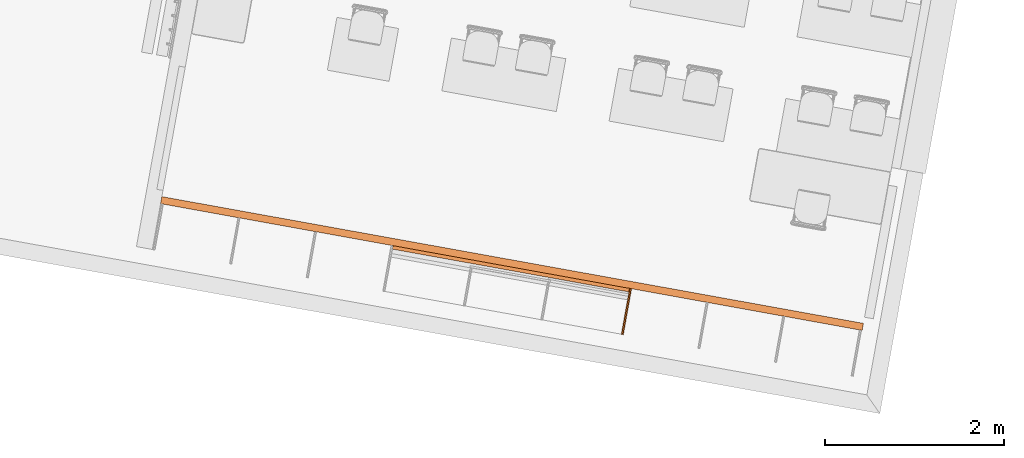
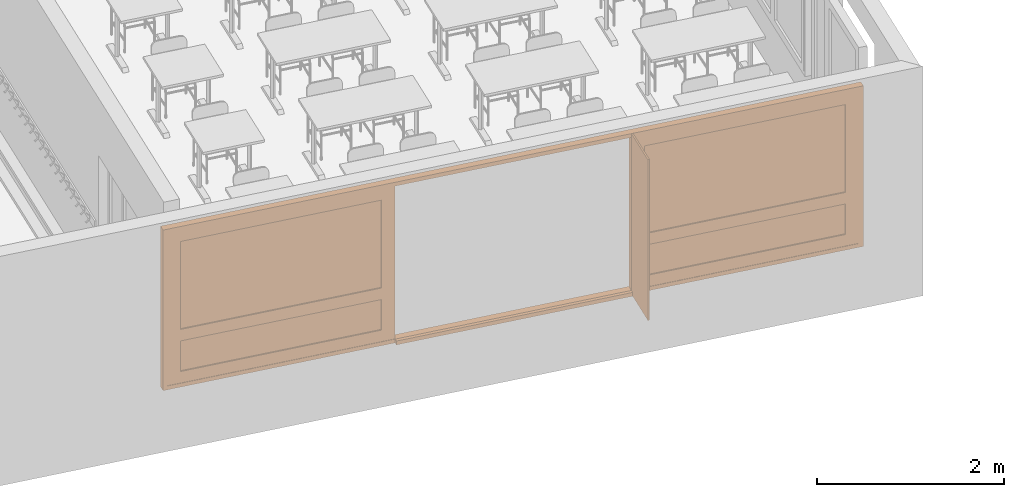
# One storey, part 22 of 79: 3 proxies.
"""IFC2X3 building model written with IfcOpenShell, lengths in metres."""

from ifc_helpers import new_model, entity, si_unit, converted_unit, derived_unit, money_unit, direction, frame, origin_with_axes, place, context, subcontext, project, spatial, polyline, outline, extrude, open_shell, faceted_brep, surface_model, source, transform, mapped, material, type_object, element, save


model = new_model("IFC2X3")

# Units and contexts
model_context = context("Model", 3, precision=1e-05, world=origin_with_axes(), true_north=direction((0.0, 1.0)))
body_context = subcontext(model_context, "Body", "Model", "MODEL_VIEW")
ifc_project = project(units=[si_unit("LENGTHUNIT", "METRE"), si_unit("AREAUNIT", "SQUARE_METRE"), si_unit("VOLUMEUNIT", "CUBIC_METRE"), converted_unit("PLANEANGLEUNIT", "DEGREE", entity("IfcPlaneAngleMeasure", 0.0174532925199), si_unit("PLANEANGLEUNIT", "RADIAN"), dimensions=[0, 0, 0, 0, 0, 0, 0]), money_unit("CHF"), converted_unit("TIMEUNIT", "Year", entity("IfcTimeMeasure", 31556926.0), si_unit("TIMEUNIT", "SECOND"), dimensions=[0, 0, 1, 0, 0, 0, 0]), si_unit("MASSUNIT", "GRAM", prefix="KILO"), si_unit("THERMODYNAMICTEMPERATUREUNIT", "DEGREE_CELSIUS"), si_unit("LUMINOUSINTENSITYUNIT", "LUMEN"), si_unit("ENERGYUNIT", "JOULE", prefix="MEGA"), derived_unit("THERMALCONDUCTANCEUNIT", [(si_unit("POWERUNIT", "WATT"), 1), (si_unit("LENGTHUNIT", "METRE"), -1), (si_unit("THERMODYNAMICTEMPERATUREUNIT", "KELVIN"), -1)]), derived_unit("SPECIFICHEATCAPACITYUNIT", [(si_unit("ENERGYUNIT", "JOULE"), 1), (si_unit("MASSUNIT", "GRAM", prefix="KILO"), -1), (si_unit("THERMODYNAMICTEMPERATUREUNIT", "KELVIN"), -1)]), derived_unit("MASSDENSITYUNIT", [(si_unit("MASSUNIT", "GRAM", prefix="KILO"), 1), (si_unit("VOLUMEUNIT", "CUBIC_METRE"), -1)])], contexts=[model_context])

# Site, building, storey
site_placement = place(None, frame((0.0, 0.0, 0.0), z_axis=(0.0, 0.0, 1.0), x_axis=(-0.177771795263, -0.984071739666, 0.0)))
site = spatial("IfcSite", under=ifc_project, at=site_placement, Name="Site", CompositionType="ELEMENT")
building_placement = place(site_placement, origin_with_axes())
building = spatial("IfcBuilding", under=site, at=building_placement, Name="Bâtiment", CompositionType="ELEMENT")
storey_placement = place(building_placement, origin_with_axes())
storey = spatial("IfcBuildingStorey", under=building, at=storey_placement, Name="RDC", CompositionType="ELEMENT", Elevation=0.0)

# Proxies
ifc_material_1 = material(Name="Matériau de construction IFC")
building_element_proxy_type_1 = type_object("IfcBuildingElementProxyType", Name="porte-couliss-triple_JM2", PredefinedType="NOTDEFINED")
shared_shape = source(origin_with_axes(), body_context, "Body", "SurfaceModel", [
    surface_model("IfcShellBasedSurfaceModel", [(7.92, -0.0799999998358, 0.05), (7.92, -0.0799999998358, 2.05), (7.92, 1.64206426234e-10, 2.05), (7.92, 1.64206426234e-10, 0.05), (7.97, -0.0799999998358, 2.05), (7.97, -0.0799999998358, 0.05), (7.97, 1.64206426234e-10, 2.05), (7.97, 1.64206426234e-10, 0.05)], [open_shell([[[0, 1, 2, 3]], [[4, 1, 0, 5]], [[6, 7, 3, 2]]])]),
    surface_model("IfcShellBasedSurfaceModel", [(7.97, -0.0799999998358, 0.0), (7.97, -0.0799999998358, 2.1), (7.97, 1.64206426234e-10, 2.1), (7.97, 1.64206426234e-10, 0.0)], [open_shell([[[0, 1, 2, 3]]])]),
    surface_model("IfcShellBasedSurfaceModel", [(0.05, -0.0799999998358, 0.05), (7.92, -0.0799999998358, 0.05), (7.92, 1.64206426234e-10, 0.05), (0.05, 1.64206426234e-10, 0.05), (7.92, -0.0799999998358, 0.0), (0.05, -0.0799999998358, 0.0), (7.92, 1.64206426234e-10, 0.0), (0.05, 1.64206426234e-10, 0.0)], [open_shell([[[0, 1, 2, 3]], [[4, 1, 0, 5]], [[6, 7, 3, 2]]])]),
    surface_model("IfcShellBasedSurfaceModel", [(7.97, -0.0799999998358, 0.0), (0.0, -0.0799999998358, 0.0), (0.0, 1.64206426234e-10, 0.0), (7.97, 1.64206426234e-10, 0.0)], [open_shell([[[0, 1, 2, 3]]])]),
    surface_model("IfcShellBasedSurfaceModel", [(7.97, -0.0799999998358, 0.0), (7.97, -0.0799999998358, 0.05), (7.92, -0.0799999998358, 0.05), (7.92, -0.0799999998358, 0.0)], [open_shell([[[0, 1, 2, 3]]])]),
    surface_model("IfcShellBasedSurfaceModel", [(7.97, 1.64206426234e-10, 0.0), (7.97, 1.64206426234e-10, 0.05), (7.92, 1.64206426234e-10, 0.05), (7.92, 1.64206426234e-10, 0.0)], [open_shell([[[0, 1, 2, 3]]])]),
    surface_model("IfcShellBasedSurfaceModel", [(0.05, -0.0799999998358, 0.0), (0.05, -0.0799999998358, 0.05), (0.0, -0.0799999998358, 0.05), (0.0, -0.0799999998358, 0.0)], [open_shell([[[0, 1, 2, 3]]])]),
    surface_model("IfcShellBasedSurfaceModel", [(0.05, 1.64206426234e-10, 0.0), (0.05, 1.64206426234e-10, 0.05), (0.0, 1.64206426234e-10, 0.05), (0.0, 1.64206426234e-10, 0.0)], [open_shell([[[0, 1, 2, 3]]])]),
    surface_model("IfcShellBasedSurfaceModel", [(0.05, -0.0799999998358, 2.05), (0.05, -0.0799999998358, 0.05), (0.05, 1.64206426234e-10, 0.05), (0.05, 1.64206426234e-10, 2.05), (0.0, -0.0799999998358, 0.05), (0.0, -0.0799999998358, 2.05), (0.0, 1.64206426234e-10, 0.05), (0.0, 1.64206426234e-10, 2.05)], [open_shell([[[0, 1, 2, 3]], [[4, 1, 0, 5]], [[6, 7, 3, 2]]])]),
    surface_model("IfcShellBasedSurfaceModel", [(0.0, -0.0799999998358, 0.0), (0.0, -0.0799999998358, 2.1), (0.0, 1.64206426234e-10, 2.1), (0.0, 1.64206426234e-10, 0.0)], [open_shell([[[0, 1, 2, 3]]])]),
    surface_model("IfcShellBasedSurfaceModel", [(7.92, -0.0799999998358, 2.05), (0.05, -0.0799999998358, 2.05), (0.05, 1.64206426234e-10, 2.05), (7.92, 1.64206426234e-10, 2.05), (0.05, -0.0799999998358, 2.1), (7.92, -0.0799999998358, 2.1), (0.05, 1.64206426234e-10, 2.1), (7.92, 1.64206426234e-10, 2.1)], [open_shell([[[0, 1, 2, 3]], [[4, 1, 0, 5]], [[6, 7, 3, 2]]])]),
    surface_model("IfcShellBasedSurfaceModel", [(7.97, -0.0799999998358, 2.1), (0.0, -0.0799999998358, 2.1), (0.0, 1.64206426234e-10, 2.1), (7.97, 1.64206426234e-10, 2.1)], [open_shell([[[0, 1, 2, 3]]])]),
    surface_model("IfcShellBasedSurfaceModel", [(7.97, -0.0799999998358, 2.05), (7.97, -0.0799999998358, 2.1), (7.92, -0.0799999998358, 2.1), (7.92, -0.0799999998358, 2.05)], [open_shell([[[0, 1, 2, 3]]])]),
    surface_model("IfcShellBasedSurfaceModel", [(7.97, 1.64206426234e-10, 2.05), (7.97, 1.64206426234e-10, 2.1), (7.92, 1.64206426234e-10, 2.1), (7.92, 1.64206426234e-10, 2.05)], [open_shell([[[0, 1, 2, 3]]])]),
    surface_model("IfcShellBasedSurfaceModel", [(0.05, -0.0799999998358, 2.05), (0.05, -0.0799999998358, 2.1), (0.0, -0.0799999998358, 2.1), (0.0, -0.0799999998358, 2.05)], [open_shell([[[0, 1, 2, 3]]])]),
    surface_model("IfcShellBasedSurfaceModel", [(0.05, 1.64206426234e-10, 2.05), (0.05, 1.64206426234e-10, 2.1), (0.0, 1.64206426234e-10, 2.1), (0.0, 1.64206426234e-10, 2.05)], [open_shell([[[0, 1, 2, 3]]])]),
    surface_model("IfcShellBasedSurfaceModel", [(7.77, -0.0744999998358, 0.2), (7.77, -0.0744999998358, 1.9), (7.77, -0.00449999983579, 1.9), (7.77, -0.00449999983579, 0.2), (7.92, -0.0744999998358, 1.9), (7.92, -0.0744999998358, 0.2), (7.92, -0.00449999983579, 1.9), (7.92, -0.00449999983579, 0.2)], [open_shell([[[0, 1, 2, 3]], [[4, 1, 0, 5]], [[6, 7, 3, 2]]])]),
    surface_model("IfcShellBasedSurfaceModel", [(7.92, -0.0744999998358, 0.05), (7.92, -0.0744999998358, 2.05), (7.92, -0.00449999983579, 2.05), (7.92, -0.00449999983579, 0.05)], [open_shell([[[0, 1, 2, 3]]])]),
    surface_model("IfcShellBasedSurfaceModel", [(5.48, -0.0744999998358, 0.2), (7.77, -0.0744999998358, 0.2), (7.77, -0.00449999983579, 0.2), (5.48, -0.00449999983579, 0.2), (7.77, -0.0744999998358, 0.05), (5.48, -0.0744999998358, 0.05), (7.77, -0.00449999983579, 0.05), (5.48, -0.00449999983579, 0.05)], [open_shell([[[0, 1, 2, 3]], [[4, 1, 0, 5]], [[6, 7, 3, 2]]])]),
    surface_model("IfcShellBasedSurfaceModel", [(7.92, -0.0744999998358, 0.05), (5.33, -0.0744999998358, 0.05), (5.33, -0.00449999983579, 0.05), (7.92, -0.00449999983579, 0.05)], [open_shell([[[0, 1, 2, 3]]])]),
    surface_model("IfcShellBasedSurfaceModel", [(7.92, -0.0744999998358, 0.05), (7.92, -0.0744999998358, 0.2), (7.77, -0.0744999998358, 0.2), (7.77, -0.0744999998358, 0.05)], [open_shell([[[0, 1, 2, 3]]])]),
    surface_model("IfcShellBasedSurfaceModel", [(7.92, -0.00449999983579, 0.05), (7.92, -0.00449999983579, 0.2), (7.77, -0.00449999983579, 0.2), (7.77, -0.00449999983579, 0.05)], [open_shell([[[0, 1, 2, 3]]])]),
    surface_model("IfcShellBasedSurfaceModel", [(5.48, -0.0744999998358, 0.05), (5.48, -0.0744999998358, 0.2), (5.33, -0.0744999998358, 0.2), (5.33, -0.0744999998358, 0.05)], [open_shell([[[0, 1, 2, 3]]])]),
    surface_model("IfcShellBasedSurfaceModel", [(5.48, -0.00449999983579, 0.05), (5.48, -0.00449999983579, 0.2), (5.33, -0.00449999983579, 0.2), (5.33, -0.00449999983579, 0.05)], [open_shell([[[0, 1, 2, 3]]])]),
    surface_model("IfcShellBasedSurfaceModel", [(5.48, -0.0744999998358, 1.9), (5.48, -0.0744999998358, 0.2), (5.48, -0.00449999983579, 0.2), (5.48, -0.00449999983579, 1.9), (5.33, -0.0744999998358, 0.2), (5.33, -0.0744999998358, 1.9), (5.33, -0.00449999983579, 0.2), (5.33, -0.00449999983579, 1.9)], [open_shell([[[0, 1, 2, 3]], [[4, 1, 0, 5]], [[6, 7, 3, 2]]])]),
    surface_model("IfcShellBasedSurfaceModel", [(5.33, -0.0744999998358, 0.05), (5.33, -0.0744999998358, 2.05), (5.33, -0.00449999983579, 2.05), (5.33, -0.00449999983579, 0.05)], [open_shell([[[0, 1, 2, 3]]])]),
    surface_model("IfcShellBasedSurfaceModel", [(7.77, -0.0744999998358, 1.9), (5.48, -0.0744999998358, 1.9), (5.48, -0.00449999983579, 1.9), (7.77, -0.00449999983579, 1.9), (5.48, -0.0744999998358, 2.05), (7.77, -0.0744999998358, 2.05), (5.48, -0.00449999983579, 2.05), (7.77, -0.00449999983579, 2.05)], [open_shell([[[0, 1, 2, 3]], [[4, 1, 0, 5]], [[6, 7, 3, 2]]])]),
    surface_model("IfcShellBasedSurfaceModel", [(7.92, -0.0744999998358, 2.05), (5.33, -0.0744999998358, 2.05), (5.33, -0.00449999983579, 2.05), (7.92, -0.00449999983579, 2.05)], [open_shell([[[0, 1, 2, 3]]])]),
    surface_model("IfcShellBasedSurfaceModel", [(7.92, -0.0744999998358, 1.9), (7.92, -0.0744999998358, 2.05), (7.77, -0.0744999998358, 2.05), (7.77, -0.0744999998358, 1.9)], [open_shell([[[0, 1, 2, 3]]])]),
    surface_model("IfcShellBasedSurfaceModel", [(7.92, -0.00449999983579, 1.9), (7.92, -0.00449999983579, 2.05), (7.77, -0.00449999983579, 2.05), (7.77, -0.00449999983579, 1.9)], [open_shell([[[0, 1, 2, 3]]])]),
    surface_model("IfcShellBasedSurfaceModel", [(5.48, -0.0744999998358, 1.9), (5.48, -0.0744999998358, 2.05), (5.33, -0.0744999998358, 2.05), (5.33, -0.0744999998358, 1.9)], [open_shell([[[0, 1, 2, 3]]])]),
    surface_model("IfcShellBasedSurfaceModel", [(5.48, -0.00449999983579, 1.9), (5.48, -0.00449999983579, 2.05), (5.33, -0.00449999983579, 2.05), (5.33, -0.00449999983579, 1.9)], [open_shell([[[0, 1, 2, 3]]])]),
    faceted_brep([(5.48, -0.0194999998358, 0.2), (7.77, -0.0194999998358, 0.2), (7.77, -0.0594999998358, 0.2), (5.48, -0.0594999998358, 0.2), (5.48, -0.0194999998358, 0.6), (7.77, -0.0194999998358, 0.6), (7.77, -0.0594999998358, 0.6), (5.48, -0.0594999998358, 0.6)], [[[0, 1, 2, 3]], [[1, 0, 4, 5]], [[2, 1, 5, 6]], [[3, 2, 6, 7]], [[0, 3, 7, 4]], [[5, 4, 7, 6]]]),
    faceted_brep([(5.48, -0.00449999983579, 0.6), (7.77, -0.00449999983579, 0.6), (7.77, -0.0744999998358, 0.6), (5.48, -0.0744999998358, 0.6), (5.48, -0.00449999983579, 0.75), (7.77, -0.00449999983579, 0.75), (7.77, -0.0744999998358, 0.75), (5.48, -0.0744999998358, 0.75)], [[[0, 1, 2, 3]], [[1, 0, 4, 5]], [[2, 1, 5, 6]], [[3, 2, 6, 7]], [[0, 3, 7, 4]], [[5, 4, 7, 6]]]),
    faceted_brep([(5.48, -0.0194999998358, 0.75), (7.77, -0.0194999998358, 0.75), (7.77, -0.0594999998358, 0.75), (5.48, -0.0594999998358, 0.75), (5.48, -0.0194999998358, 1.9), (7.77, -0.0194999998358, 1.9), (7.77, -0.0594999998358, 1.9), (5.48, -0.0594999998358, 1.9)], [[[0, 1, 2, 3]], [[1, 0, 4, 5]], [[2, 1, 5, 6]], [[3, 2, 6, 7]], [[0, 3, 7, 4]], [[5, 4, 7, 6]]]),
    surface_model("IfcShellBasedSurfaceModel", [(2.49, -0.0744999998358, 0.2), (2.49, -0.0744999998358, 1.9), (2.49, -0.00449999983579, 1.9), (2.49, -0.00449999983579, 0.2), (2.64, -0.0744999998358, 1.9), (2.64, -0.0744999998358, 0.2), (2.64, -0.00449999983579, 1.9), (2.64, -0.00449999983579, 0.2)], [open_shell([[[0, 1, 2, 3]], [[4, 1, 0, 5]], [[6, 7, 3, 2]]])]),
    surface_model("IfcShellBasedSurfaceModel", [(2.64, -0.0744999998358, 0.05), (2.64, -0.0744999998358, 2.05), (2.64, -0.00449999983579, 2.05), (2.64, -0.00449999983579, 0.05)], [open_shell([[[0, 1, 2, 3]]])]),
    surface_model("IfcShellBasedSurfaceModel", [(0.2, -0.0744999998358, 0.2), (2.49, -0.0744999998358, 0.2), (2.49, -0.00449999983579, 0.2), (0.2, -0.00449999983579, 0.2), (2.49, -0.0744999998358, 0.05), (0.2, -0.0744999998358, 0.05), (2.49, -0.00449999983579, 0.05), (0.2, -0.00449999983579, 0.05)], [open_shell([[[0, 1, 2, 3]], [[4, 1, 0, 5]], [[6, 7, 3, 2]]])]),
    surface_model("IfcShellBasedSurfaceModel", [(2.64, -0.0744999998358, 0.05), (0.05, -0.0744999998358, 0.05), (0.05, -0.00449999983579, 0.05), (2.64, -0.00449999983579, 0.05)], [open_shell([[[0, 1, 2, 3]]])]),
    surface_model("IfcShellBasedSurfaceModel", [(2.64, -0.0744999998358, 0.05), (2.64, -0.0744999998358, 0.2), (2.49, -0.0744999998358, 0.2), (2.49, -0.0744999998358, 0.05)], [open_shell([[[0, 1, 2, 3]]])]),
    surface_model("IfcShellBasedSurfaceModel", [(2.64, -0.00449999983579, 0.05), (2.64, -0.00449999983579, 0.2), (2.49, -0.00449999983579, 0.2), (2.49, -0.00449999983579, 0.05)], [open_shell([[[0, 1, 2, 3]]])]),
    surface_model("IfcShellBasedSurfaceModel", [(0.2, -0.0744999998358, 0.05), (0.2, -0.0744999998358, 0.2), (0.05, -0.0744999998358, 0.2), (0.05, -0.0744999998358, 0.05)], [open_shell([[[0, 1, 2, 3]]])]),
    surface_model("IfcShellBasedSurfaceModel", [(0.2, -0.00449999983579, 0.05), (0.2, -0.00449999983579, 0.2), (0.05, -0.00449999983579, 0.2), (0.05, -0.00449999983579, 0.05)], [open_shell([[[0, 1, 2, 3]]])]),
    surface_model("IfcShellBasedSurfaceModel", [(0.2, -0.0744999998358, 1.9), (0.2, -0.0744999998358, 0.2), (0.2, -0.00449999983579, 0.2), (0.2, -0.00449999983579, 1.9), (0.05, -0.0744999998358, 0.2), (0.05, -0.0744999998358, 1.9), (0.05, -0.00449999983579, 0.2), (0.05, -0.00449999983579, 1.9)], [open_shell([[[0, 1, 2, 3]], [[4, 1, 0, 5]], [[6, 7, 3, 2]]])]),
    surface_model("IfcShellBasedSurfaceModel", [(0.05, -0.0744999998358, 0.05), (0.05, -0.0744999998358, 2.05), (0.05, -0.00449999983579, 2.05), (0.05, -0.00449999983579, 0.05)], [open_shell([[[0, 1, 2, 3]]])]),
    surface_model("IfcShellBasedSurfaceModel", [(2.49, -0.0744999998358, 1.9), (0.2, -0.0744999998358, 1.9), (0.2, -0.00449999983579, 1.9), (2.49, -0.00449999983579, 1.9), (0.2, -0.0744999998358, 2.05), (2.49, -0.0744999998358, 2.05), (0.2, -0.00449999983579, 2.05), (2.49, -0.00449999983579, 2.05)], [open_shell([[[0, 1, 2, 3]], [[4, 1, 0, 5]], [[6, 7, 3, 2]]])]),
    surface_model("IfcShellBasedSurfaceModel", [(2.64, -0.0744999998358, 2.05), (0.05, -0.0744999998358, 2.05), (0.05, -0.00449999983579, 2.05), (2.64, -0.00449999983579, 2.05)], [open_shell([[[0, 1, 2, 3]]])]),
    surface_model("IfcShellBasedSurfaceModel", [(2.64, -0.0744999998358, 1.9), (2.64, -0.0744999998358, 2.05), (2.49, -0.0744999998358, 2.05), (2.49, -0.0744999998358, 1.9)], [open_shell([[[0, 1, 2, 3]]])]),
    surface_model("IfcShellBasedSurfaceModel", [(2.64, -0.00449999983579, 1.9), (2.64, -0.00449999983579, 2.05), (2.49, -0.00449999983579, 2.05), (2.49, -0.00449999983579, 1.9)], [open_shell([[[0, 1, 2, 3]]])]),
    surface_model("IfcShellBasedSurfaceModel", [(0.2, -0.0744999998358, 1.9), (0.2, -0.0744999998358, 2.05), (0.05, -0.0744999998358, 2.05), (0.05, -0.0744999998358, 1.9)], [open_shell([[[0, 1, 2, 3]]])]),
    surface_model("IfcShellBasedSurfaceModel", [(0.2, -0.00449999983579, 1.9), (0.2, -0.00449999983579, 2.05), (0.05, -0.00449999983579, 2.05), (0.05, -0.00449999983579, 1.9)], [open_shell([[[0, 1, 2, 3]]])]),
    faceted_brep([(0.2, -0.0194999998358, 0.2), (2.49, -0.0194999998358, 0.2), (2.49, -0.0594999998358, 0.2), (0.2, -0.0594999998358, 0.2), (0.2, -0.0194999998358, 0.6), (2.49, -0.0194999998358, 0.6), (2.49, -0.0594999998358, 0.6), (0.2, -0.0594999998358, 0.6)], [[[0, 1, 2, 3]], [[1, 0, 4, 5]], [[2, 1, 5, 6]], [[3, 2, 6, 7]], [[0, 3, 7, 4]], [[5, 4, 7, 6]]]),
    faceted_brep([(0.2, -0.00449999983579, 0.6), (2.49, -0.00449999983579, 0.6), (2.49, -0.0744999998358, 0.6), (0.2, -0.0744999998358, 0.6), (0.2, -0.00449999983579, 0.75), (2.49, -0.00449999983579, 0.75), (2.49, -0.0744999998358, 0.75), (0.2, -0.0744999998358, 0.75)], [[[0, 1, 2, 3]], [[1, 0, 4, 5]], [[2, 1, 5, 6]], [[3, 2, 6, 7]], [[0, 3, 7, 4]], [[5, 4, 7, 6]]]),
    faceted_brep([(0.2, -0.0194999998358, 0.75), (2.49, -0.0194999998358, 0.75), (2.49, -0.0594999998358, 0.75), (0.2, -0.0594999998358, 0.75), (0.2, -0.0194999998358, 1.9), (2.49, -0.0194999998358, 1.9), (2.49, -0.0594999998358, 1.9), (0.2, -0.0594999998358, 1.9)], [[[0, 1, 2, 3]], [[1, 0, 4, 5]], [[2, 1, 5, 6]], [[3, 2, 6, 7]], [[0, 3, 7, 4]], [[5, 4, 7, 6]]]),
])
proxy_1_placement = place(storey_placement, frame((164.069841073, -156.44715293, 0.0), z_axis=(0.0, 0.0, 1.0), x_axis=(0.0, 1.0, 0.0)))
element("IfcBuildingElementProxy", 1, at=proxy_1_placement, inside=storey, type_object=building_element_proxy_type_1, material=ifc_material_1, Name="coulissant-classe", context=body_context, shape_type="MappedRepresentation", body=[
    mapped(shared_shape, transform((0.0, 0.0, 0.0))),
])
ifc_material_2 = material(Name="_panneau mélaminé")
building_element_proxy_type_2 = type_object("IfcBuildingElementProxyType", Name="_panneau mélaminé 19", PredefinedType="NOTDEFINED")
proxy_2_placement = place(storey_placement, frame((164.669841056, -151.107651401, 0.0), z_axis=(0.0, 0.0, 1.0), x_axis=(-1.0, 0.0, 0.0)))
element("IfcBuildingElementProxy", 2, at=proxy_2_placement, inside=storey, type_object=building_element_proxy_type_2, material=ifc_material_2, Name="cloison pl-classe", context=body_context, shape_type="SweptSolid", body=[
    extrude(outline(polyline([(0.0, -0.0095), (0.519999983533, -0.0095), (0.519999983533, 0.0095), (0.0, 0.0095), (0.0, -0.0095)])), origin_with_axes(), (0.0, 0.0, 1.0), 2.1),
])
ifc_material_3 = material(Name="_Bois contreplaqué")
building_element_proxy_type_3 = type_object("IfcBuildingElementProxyType", Name="_Bois contreplaqué 50", PredefinedType="NOTDEFINED")
proxy_3_placement = place(storey_placement, frame((164.149841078, -153.807151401, 0.05), z_axis=(0.0, 0.0, 1.0), x_axis=(1.0, 0.0, 0.0)))
element("IfcBuildingElementProxy", 3, at=proxy_3_placement, inside=storey, type_object=building_element_proxy_type_3, material=ifc_material_3, Name="socle-tableau", context=body_context, shape_type="SweptSolid", body=[
    extrude(outline(polyline([(0.0, 0.0), (0.040000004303, 0.0), (0.040000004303, 2.69), (0.0, 2.69), (0.0, 0.0)])), frame((0.0, 0.0, -0.05), z_axis=(0.0, 0.0, 1.0), x_axis=(1.0, 0.0, 0.0)), (0.0, 0.0, 1.0), 0.05),
])

save(model, "model.ifc")
